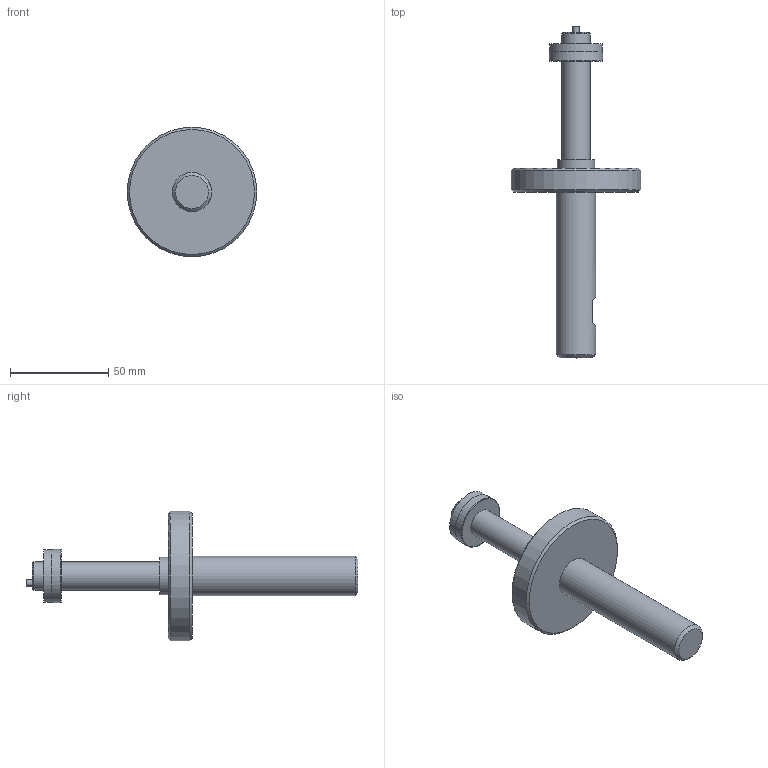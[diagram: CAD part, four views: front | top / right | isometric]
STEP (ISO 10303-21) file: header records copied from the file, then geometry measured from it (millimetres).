
FILE_DESCRIPTION (( 'STEP AP203' ), '1' );
FILE_NAME ('AF56-SIMPLE - AF56-14.50M-27.50M.step', '2025-01-22T13:32:22', ( '' ), ( '' ), 'SwSTEP 2.0', 'SolidWorks 2024', '' );
FILE_SCHEMA (( 'CONFIG_CONTROL_DESIGN' ));
Length unit declared in the file: inch
Products named in the file (1): AF56-SIMPLE - AF56-14.50M-27.50M
Bounding box: 66.04 x 169.29 x 66.04 mm (x, y, z)
Volume: 83323.3 mm3; surface area: 18753.5 mm2
Topology: 1 solids, 1 shells, 24 faces, 40 edges, 25 vertices
Faces by surface type: plane 11, cylinder 7, cone 5, torus 1
Full cylindrical faces by diameter (mm): 3.175 x1, 14.376 x2, 19.05 x1, 20 x1, 26.994 x1, 66.04 x1
Entity records: 569 total; most frequent: DIRECTION 94, CARTESIAN_POINT 81, ORIENTED_EDGE 52, AXIS2_PLACEMENT_3D 45, EDGE_LOOP 44, FACE_OUTER_BOUND 32, EDGE_CURVE 26, ADVANCED_FACE 24
